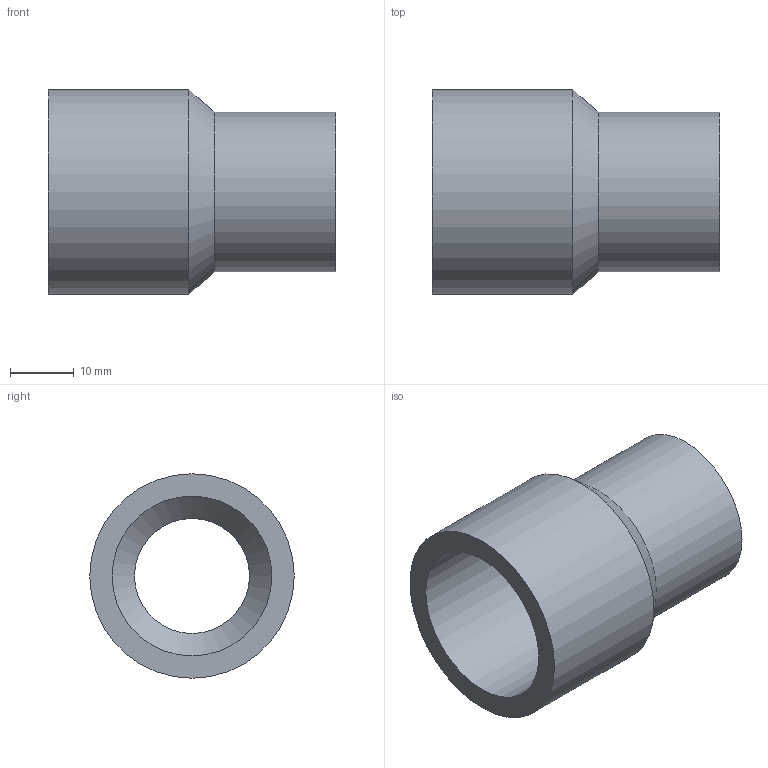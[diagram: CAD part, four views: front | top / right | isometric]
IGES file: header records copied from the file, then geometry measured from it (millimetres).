
Global section: file name: 050200032020.ipt; native system: Autodesk Inventor 2015; preprocessor: unknown; author: KIM; date: 20171207.164143; units: millimetre
Bounding box: 45 x 32 x 32 mm (x, y, z)
Volume: 12116.5 mm3; surface area: 7947.9 mm2
Topology: 1 solids, 1 shells, 10 faces, 23 edges, 16 vertices
Faces by surface type: revolution 4, plane 3, cylinder 2, cone 1
Full cylindrical faces by diameter (mm): 25 x1, 32 x1
